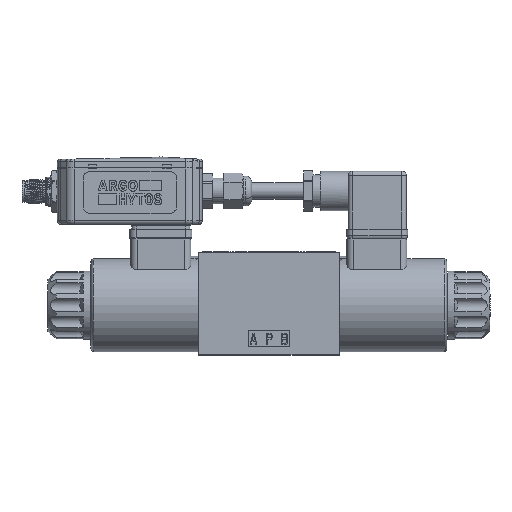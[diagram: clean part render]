
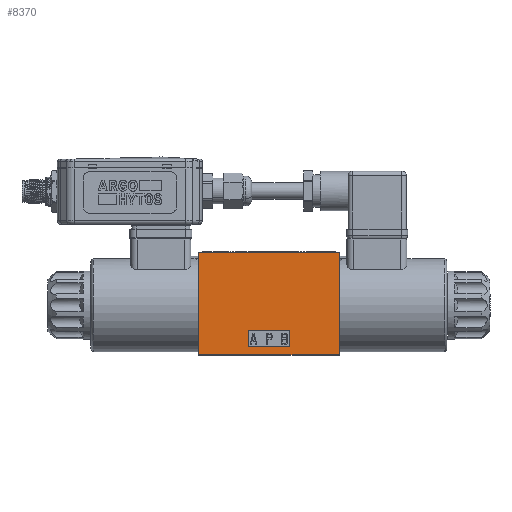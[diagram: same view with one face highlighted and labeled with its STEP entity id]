
A CAD part, top view. The second image highlights one B-rep face of the part: STEP entity #8370.
In plain terms, the highlighted planar face has unit normal (0, 0, 1).
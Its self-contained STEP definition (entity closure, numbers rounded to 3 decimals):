
#585=DIRECTION('',(1.,0.,0.));
#586=VECTOR('',#585,68.);
#587=CARTESIAN_POINT('',(-34.,-24.,22.5));
#588=LINE('',#587,#586);
#592=DIRECTION('',(0.,-1.,0.));
#593=VECTOR('',#592,49.3);
#594=CARTESIAN_POINT('',(-34.,25.3,22.5));
#595=LINE('',#594,#593);
#599=DIRECTION('',(-1.,0.,0.));
#600=VECTOR('',#599,68.);
#601=CARTESIAN_POINT('',(34.,25.3,22.5));
#602=LINE('',#601,#600);
#606=DIRECTION('',(0.,1.,0.));
#607=VECTOR('',#606,49.3);
#608=CARTESIAN_POINT('',(34.,-24.,22.5));
#609=LINE('',#608,#607);
#613=DIRECTION('',(1.,0.,0.));
#614=VECTOR('',#613,20.);
#615=CARTESIAN_POINT('',(-10.,-20.,22.5));
#616=LINE('',#615,#614);
#620=DIRECTION('',(0.,1.,0.));
#621=VECTOR('',#620,8.);
#622=CARTESIAN_POINT('',(10.,-20.,22.5));
#623=LINE('',#622,#621);
#627=DIRECTION('',(-1.,0.,0.));
#628=VECTOR('',#627,20.);
#629=CARTESIAN_POINT('',(10.,-12.,22.5));
#630=LINE('',#629,#628);
#634=DIRECTION('',(0.,-1.,0.));
#635=VECTOR('',#634,8.);
#636=CARTESIAN_POINT('',(-10.,-12.,22.5));
#637=LINE('',#636,#635);
#7261=CARTESIAN_POINT('',(-34.,-24.,22.5));
#7262=CARTESIAN_POINT('',(34.,-24.,22.5));
#7263=VERTEX_POINT('',#7261);
#7264=VERTEX_POINT('',#7262);
#7265=CARTESIAN_POINT('',(34.,25.3,22.5));
#7266=VERTEX_POINT('',#7265);
#7267=CARTESIAN_POINT('',(-34.,25.3,22.5));
#7268=VERTEX_POINT('',#7267);
#7557=CARTESIAN_POINT('',(-10.,-20.,22.5));
#7558=CARTESIAN_POINT('',(10.,-20.,22.5));
#7559=VERTEX_POINT('',#7557);
#7560=VERTEX_POINT('',#7558);
#7561=CARTESIAN_POINT('',(10.,-12.,22.5));
#7562=VERTEX_POINT('',#7561);
#7563=CARTESIAN_POINT('',(-10.,-12.,22.5));
#7564=VERTEX_POINT('',#7563);
#8349=CARTESIAN_POINT('',(0.,0.,22.5));
#8350=DIRECTION('',(0.,0.,1.));
#8351=DIRECTION('',(1.,0.,0.));
#8352=AXIS2_PLACEMENT_3D('',#8349,#8350,#8351);
#8353=PLANE('',#8352);
#8354=ORIENTED_EDGE('',*,*,#8185,.F.);
#8355=ORIENTED_EDGE('',*,*,#8230,.F.);
#8356=ORIENTED_EDGE('',*,*,#8250,.F.);
#8357=ORIENTED_EDGE('',*,*,#8337,.F.);
#8358=EDGE_LOOP('',(#8354,#8355,#8356,#8357));
#8359=FACE_OUTER_BOUND('',#8358,.F.);
#8361=ORIENTED_EDGE('',*,*,#8360,.T.);
#8363=ORIENTED_EDGE('',*,*,#8362,.T.);
#8365=ORIENTED_EDGE('',*,*,#8364,.T.);
#8367=ORIENTED_EDGE('',*,*,#8366,.T.);
#8368=EDGE_LOOP('',(#8361,#8363,#8365,#8367));
#8369=FACE_BOUND('',#8368,.F.);
#8185=EDGE_CURVE('',#7263,#7264,#588,.T.);
#8230=EDGE_CURVE('',#7268,#7263,#595,.T.);
#8250=EDGE_CURVE('',#7266,#7268,#602,.T.);
#8337=EDGE_CURVE('',#7264,#7266,#609,.T.);
#8360=EDGE_CURVE('',#7559,#7560,#616,.T.);
#8362=EDGE_CURVE('',#7560,#7562,#623,.T.);
#8364=EDGE_CURVE('',#7562,#7564,#630,.T.);
#8366=EDGE_CURVE('',#7564,#7559,#637,.T.);
#8370=ADVANCED_FACE('',(#8359,#8369),#8353,.T.);
